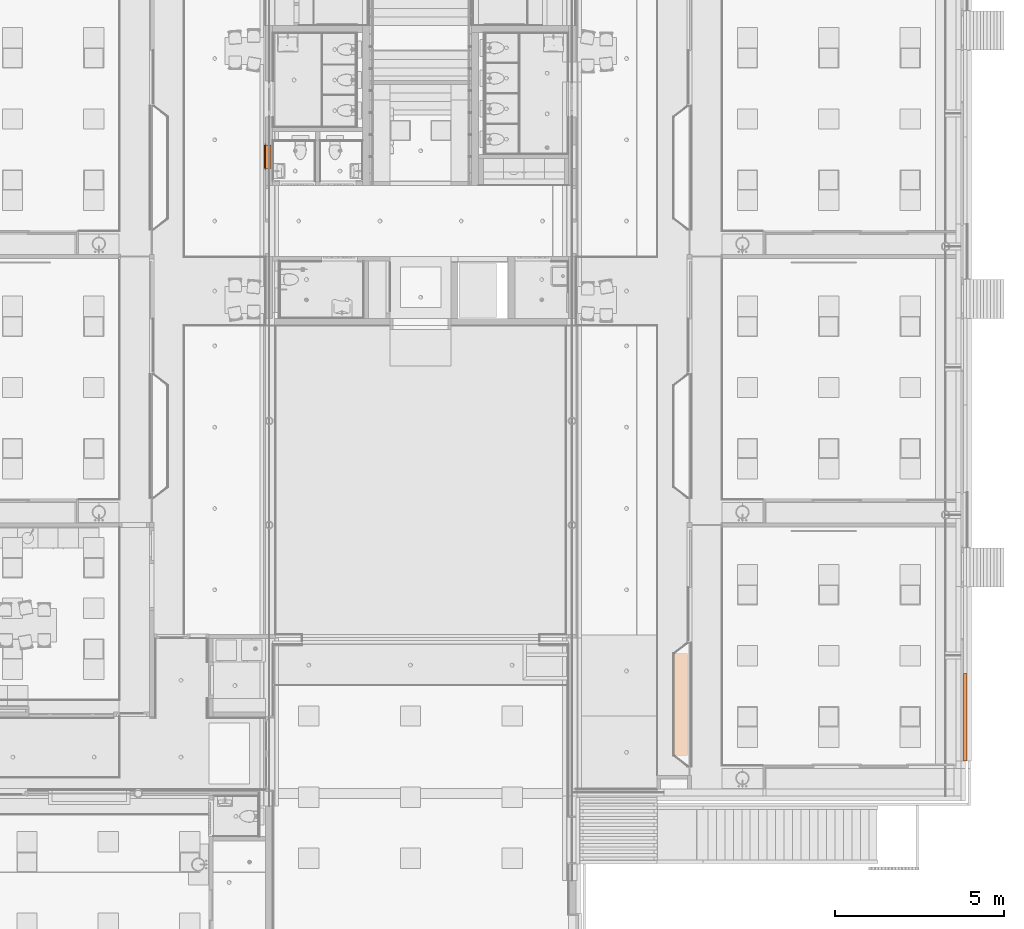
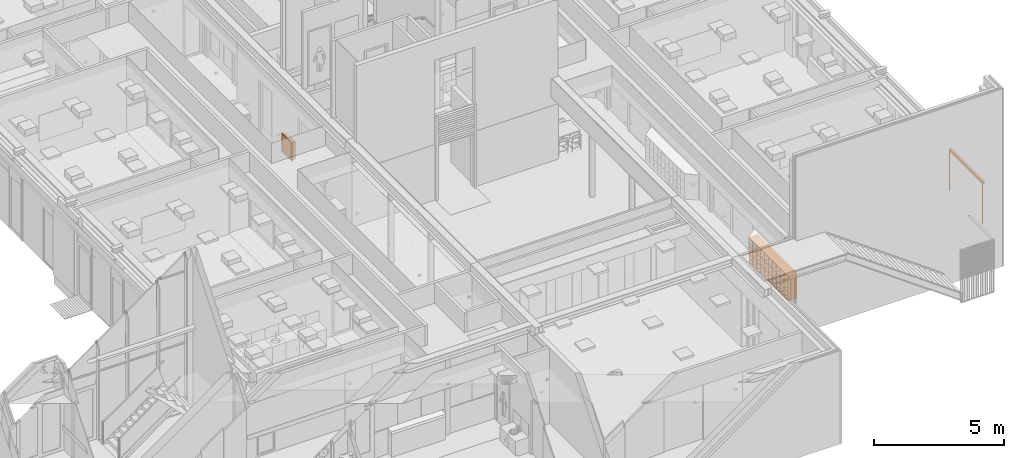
# One storey, part 332 of 347: 3 proxies.
"""IFC2X3 building model written with IfcOpenShell, lengths in millimetres."""

import ifcopenshell
import ifcopenshell.guid

model = None  # the IFC model being written
_history = None  # IfcOwnerHistory: only IFC2X3 demands one
_inside = {}  # id of a spatial element -> (the spatial element, [elements in it])
_under = {}  # id of a project, library or spatial element -> (it, [spatial elements below it])
_declared = {}  # id of a project -> (the project, [libraries it declares])
_typed = {}  # id of a type object -> (the type object, [elements of that type])
_made_of = {}  # id of a material, layer set ... -> (it, [elements and type objects made of it])


def new_model(schema):
    """Start an empty IFC model of exactly this schema.

    Asked for "IFC4X3", IfcOpenShell would pick the latest addendum, in which some entities
    have other attributes; the version numbers below select the first issue.
    IFC2X3 requires an IfcOwnerHistory on every rooted entity: one is made here for all.
    """
    global model, _history
    if schema == "IFC4X3":
        model = ifcopenshell.file(schema_version=(4, 3, 0, 0))
    else:
        model = ifcopenshell.file(schema=schema)
    _inside.clear()
    _under.clear()
    _declared.clear()
    _typed.clear()
    _made_of.clear()
    _history = None
    if model.schema == "IFC2X3":
        org = make("IfcOrganization", Name="unknown")
        user = make(
            "IfcPersonAndOrganization",
            ThePerson=make("IfcPerson", FamilyName="unknown"),
            TheOrganization=org,
        )
        app = make(
            "IfcApplication",
            ApplicationDeveloper=org,
            Version="unknown",
            ApplicationFullName="unknown",
            ApplicationIdentifier="unknown",
        )
        _history = make(
            "IfcOwnerHistory",
            OwningUser=user,
            OwningApplication=app,
            ChangeAction="ADDED",
            CreationDate=0,
        )
    return model


def make(cls, **values):
    """One entity of the class cls with the attributes given. An attribute that is None is left unset."""
    return model.create_entity(
        cls, **{name: value for name, value in values.items() if value is not None}
    )


def entity(cls, *values):
    """Any entity or typed value of the class cls, its attributes in the order of the schema. None: left unset."""
    e = model.create_entity(cls)
    for i, value in enumerate(values):
        if value is not None:
            e[i] = value
    return e


def rooted(cls, **values):
    """An entity with a GlobalId (a new one), such as an element, a storey or a relation."""
    return make(cls, GlobalId=ifcopenshell.guid.new(), OwnerHistory=_history, **values)


def si_unit(unit_type, name, prefix=None):
    """IfcSIUnit, for example si_unit("LENGTHUNIT", "METRE", prefix="MILLI")."""
    return make("IfcSIUnit", UnitType=unit_type, Prefix=prefix, Name=name)


def converted_unit(unit_type, name, factor, base, dimensions=None, offset=None):
    """IfcConversionBasedUnit, such as the inch: factor (a typed value) times the base unit."""
    return make(
        "IfcConversionBasedUnit"
        if offset is None
        else "IfcConversionBasedUnitWithOffset",
        ConversionOffset=offset,
        Dimensions=None
        if dimensions is None
        else entity("IfcDimensionalExponents", *dimensions),
        UnitType=unit_type,
        Name=name,
        ConversionFactor=make(
            "IfcMeasureWithUnit", ValueComponent=factor, UnitComponent=base
        ),
    )


def derived_unit(unit_type, elements):
    """IfcDerivedUnit: a product of units, each with its exponent."""
    return make(
        "IfcDerivedUnit",
        Elements=[
            make("IfcDerivedUnitElement", Unit=unit, Exponent=power)
            for unit, power in elements
        ],
        UnitType=unit_type,
    )


def money_unit(currency):
    """IfcMonetaryUnit."""
    return make("IfcMonetaryUnit", Currency=currency)


def assignment(units):
    """IfcUnitAssignment: the units of a project."""
    return None if units is None else make("IfcUnitAssignment", Units=units)


def point(xyz):
    """IfcCartesianPoint."""
    return None if xyz is None else make("IfcCartesianPoint", Coordinates=xyz)


def direction(xyz):
    """IfcDirection."""
    return None if xyz is None else make("IfcDirection", DirectionRatios=xyz)


def frame(location, z_axis=None, x_axis=None):
    """IfcAxis2Placement3D, a coordinate frame: its origin and axes. An axis left out is left unset."""
    return make(
        "IfcAxis2Placement3D",
        Location=point(location),
        Axis=direction(z_axis),
        RefDirection=direction(x_axis),
    )


def origin_with_axes():
    """The frame at (0, 0, 0) with the z axis (0, 0, 1) and the x axis (1, 0, 0) written out."""
    return frame((0.0, 0.0, 0.0), z_axis=(0.0, 0.0, 1.0), x_axis=(1.0, 0.0, 0.0))


def place(relative_to, where):
    """IfcLocalPlacement: puts the frame where relative to a parent placement (None: the world)."""
    return make(
        "IfcLocalPlacement", PlacementRelTo=relative_to, RelativePlacement=where
    )


def context(
    kind, dimensions, precision=None, world=None, true_north=None, identifier=None
):
    """IfcGeometricRepresentationContext, for example the 3D "Model" context."""
    return make(
        "IfcGeometricRepresentationContext",
        ContextIdentifier=identifier,
        ContextType=kind,
        CoordinateSpaceDimension=dimensions,
        Precision=precision,
        WorldCoordinateSystem=world,
        TrueNorth=true_north,
    )


def subcontext(parent, identifier, kind, view, scale=None):
    """IfcGeometricRepresentationSubContext, for example "Body" below "Model"."""
    return make(
        "IfcGeometricRepresentationSubContext",
        ContextIdentifier=identifier,
        ContextType=kind,
        ParentContext=parent,
        TargetScale=scale,
        TargetView=view,
    )


def project(units=None, contexts=None):
    """IfcProject with its units and contexts."""
    return rooted(
        "IfcProject",
        Name="project",
        RepresentationContexts=contexts,
        UnitsInContext=assignment(units),
    )


def spatial(cls, under=None, at=None, **own):
    """A site, building, storey or space (cls), placed at a placement, below another one or the project."""
    s = rooted(cls, ObjectPlacement=at, **own)
    if under is not None:
        _under.setdefault(under.id(), (under, []))[1].append(s)
    return s


def faces_of(points, faces, orient=None, outer=None):
    """IfcFace entities. A face is a list of loops; a loop is a list of indices into points, from 0.

    orient and outer hold one flag for each loop. By default every Orientation is true, the
    first loop of a face is its IfcFaceOuterBound and the others are IfcFaceBound.
    """
    made = []
    for i, loops in enumerate(faces):
        bounds = []
        for j, loop in enumerate(loops):
            is_outer = j == 0 if outer is None else outer[i][j]
            bounds.append(
                make(
                    "IfcFaceOuterBound" if is_outer else "IfcFaceBound",
                    Bound=make("IfcPolyLoop", Polygon=[points[k] for k in loop]),
                    Orientation=True if orient is None else orient[i][j],
                )
            )
        made.append(make("IfcFace", Bounds=bounds))
    return made


def open_shell(faces, orient=None, outer=None):
    """The faces of one IfcOpenShell. surface_model builds it on its shared points."""
    return ("IfcOpenShell", faces, orient, outer)


def faceted_brep(points, faces, orient=None, outer=None, voids=None):
    """IfcFacetedBrep: a solid bounded by flat faces; with voids (closed shells), ...WithVoids."""
    shared = [point(p) for p in points]
    hull = make("IfcClosedShell", CfsFaces=faces_of(shared, faces, orient, outer))
    if voids is None:
        return make("IfcFacetedBrep", Outer=hull)
    return make(
        "IfcFacetedBrepWithVoids",
        Outer=hull,
        Voids=[
            make(cls, CfsFaces=faces_of(shared, fs, o, b)) for cls, fs, o, b in voids
        ],
    )


def surface_model(cls, points, shells):
    """IfcFaceBasedSurfaceModel or IfcShellBasedSurfaceModel (cls): surfaces that need not close."""
    shared = [point(p) for p in points]
    made = [make(c, CfsFaces=faces_of(shared, fs, o, b)) for c, fs, o, b in shells]
    if cls == "IfcFaceBasedSurfaceModel":
        return make(cls, FbsmFaces=made)
    return make(cls, SbsmBoundary=made)


def shape(context_of_items, identifier, shape_type, items):
    """IfcShapeRepresentation: the items that make up one representation, for example the "Body"."""
    return make(
        "IfcShapeRepresentation",
        ContextOfItems=context_of_items,
        RepresentationIdentifier=identifier,
        RepresentationType=shape_type,
        Items=items,
    )


def source(mapping_origin, context_of_items, identifier, shape_type, items):
    """IfcRepresentationMap: a shape defined once, which mapped items show again and again."""
    return make(
        "IfcRepresentationMap",
        MappingOrigin=mapping_origin,
        MappedRepresentation=shape(context_of_items, identifier, shape_type, items),
    )


def transform(
    local_origin,
    x_axis=None,
    y_axis=None,
    z_axis=None,
    scale=None,
    scale2=None,
    scale3=None,
    uniform=True,
):
    """IfcCartesianTransformationOperator3D, or its non-uniform kind. x_axis, y_axis, z_axis: its Axis1, 2, 3."""
    if uniform:
        return make(
            "IfcCartesianTransformationOperator3D",
            Axis1=direction(x_axis),
            Axis2=direction(y_axis),
            LocalOrigin=point(local_origin),
            Scale=scale,
            Axis3=direction(z_axis),
        )
    return make(
        "IfcCartesianTransformationOperator3DnonUniform",
        Axis1=direction(x_axis),
        Axis2=direction(y_axis),
        LocalOrigin=point(local_origin),
        Scale=scale,
        Axis3=direction(z_axis),
        Scale2=scale2,
        Scale3=scale3,
    )


def mapped(mapping_source, mapping_target):
    """IfcMappedItem: shows the shape of a source again, moved by a transform."""
    return make(
        "IfcMappedItem", MappingSource=mapping_source, MappingTarget=mapping_target
    )


def made_of(thing, what):
    """Note that an element or type object is made of a material, layer set ...; save() writes the relation."""
    if what is not None:
        _made_of.setdefault(what.id(), (what, []))[1].append(thing)
    return thing


def type_object(cls, material=None, **own):
    """A type object (cls), such as IfcWallType, which elements share."""
    return made_of(rooted(cls, **own), material)


def type_shapes(of_type, sources):
    """Give a type object the sources (RepresentationMaps) that its elements show as mapped items."""
    of_type.RepresentationMaps = sources


def element(
    cls,
    number,
    at=None,
    inside=None,
    cuts=None,
    type_object=None,
    material=None,
    context=None,
    identifier="Body",
    shape_type=None,
    held_by="IfcProductDefinitionShape",
    body=None,
    shapes=None,
    **own,
):
    """One element of the class cls, such as IfcWall. Its Tag is "e" and its number.

    at: its placement. inside: the storey or other place that contains it. cuts: it is an
    opening in that element (IfcRelVoidsElement). A single representation is given by context,
    identifier, shape_type and body (its items); several are given by shapes. held_by: the class
    of the entity that holds the representations. save() writes the other relations.
    """
    e = rooted(cls, Tag="e%d" % number, ObjectPlacement=at, **own)
    if body is not None:
        shapes = [shape(context, identifier, shape_type, body)]
    if shapes is not None:
        e.Representation = make(held_by, Representations=shapes)
    if inside is not None:
        _inside.setdefault(inside.id(), (inside, []))[1].append(e)
    if cuts is not None:
        rooted(
            "IfcRelVoidsElement", RelatingBuildingElement=cuts, RelatedOpeningElement=e
        )
    if type_object is not None:
        _typed.setdefault(type_object.id(), (type_object, []))[1].append(e)
    return made_of(e, material)


def aggregate(whole, parts):
    """IfcRelAggregates: a whole, such as a stair, and the parts it consists of."""
    return rooted("IfcRelAggregates", RelatingObject=whole, RelatedObjects=parts)


def save(model, path):
    """Write the relations noted so far, then the file.

    IfcRelAggregates (storeys below a building ...), IfcRelContainedInSpatialStructure (elements
    in a storey), IfcRelDefinesByType, IfcRelAssociatesMaterial and IfcRelDeclares: one each for
    every whole, place, type object, material and project.
    """
    for whole, parts in _under.values():
        aggregate(whole, parts)
    for where, things in _inside.values():
        rooted(
            "IfcRelContainedInSpatialStructure",
            RelatedElements=things,
            RelatingStructure=where,
        )
    for kind, things in _typed.values():
        rooted("IfcRelDefinesByType", RelatedObjects=things, RelatingType=kind)
    for what, things in _made_of.values():
        rooted("IfcRelAssociatesMaterial", RelatedObjects=things, RelatingMaterial=what)
    for by, libraries in _declared.values():
        rooted("IfcRelDeclares", RelatingContext=by, RelatedDefinitions=libraries)
    model.write(path)


model = new_model("IFC2X3")

# Units and contexts
model_context = context("Model", 3, precision=0.01, world=origin_with_axes(), true_north=direction((0.0, 1.0)))
plan_context = context("Plan", 3, precision=0.01, world=origin_with_axes(), true_north=direction((0.0, 1.0)))
body_context = subcontext(model_context, "Body", "Model", "MODEL_VIEW")
ifc_project = project(units=[si_unit("LENGTHUNIT", "METRE", prefix="MILLI"), si_unit("AREAUNIT", "SQUARE_METRE"), si_unit("VOLUMEUNIT", "CUBIC_METRE"), converted_unit("PLANEANGLEUNIT", "DEGREE", entity("IfcPlaneAngleMeasure", 0.0174532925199), si_unit("PLANEANGLEUNIT", "RADIAN"), dimensions=[0, 0, 0, 0, 0, 0, 0]), money_unit("EUR"), converted_unit("TIMEUNIT", "Year", entity("IfcTimeMeasure", 31556926.0), si_unit("TIMEUNIT", "SECOND"), dimensions=[0, 0, 1, 0, 0, 0, 0]), si_unit("MASSUNIT", "GRAM", prefix="KILO"), si_unit("THERMODYNAMICTEMPERATUREUNIT", "DEGREE_CELSIUS"), si_unit("LUMINOUSINTENSITYUNIT", "LUMEN"), si_unit("ENERGYUNIT", "JOULE", prefix="MEGA"), derived_unit("THERMALCONDUCTANCEUNIT", [(si_unit("POWERUNIT", "WATT"), 1), (si_unit("LENGTHUNIT", "METRE"), -1), (si_unit("THERMODYNAMICTEMPERATUREUNIT", "KELVIN"), -1)]), derived_unit("SPECIFICHEATCAPACITYUNIT", [(si_unit("ENERGYUNIT", "JOULE"), 1), (si_unit("MASSUNIT", "GRAM", prefix="KILO"), -1), (si_unit("THERMODYNAMICTEMPERATUREUNIT", "KELVIN"), -1)]), derived_unit("MASSDENSITYUNIT", [(si_unit("MASSUNIT", "GRAM", prefix="KILO"), 1), (si_unit("VOLUMEUNIT", "CUBIC_METRE"), -1)])], contexts=[model_context, plan_context])

# Site, building, storey
site_placement = place(None, origin_with_axes())
site = spatial("IfcSite", under=ifc_project, at=site_placement, Name="Site", CompositionType="ELEMENT")
building_placement = place(site_placement, origin_with_axes())
building = spatial("IfcBuilding", under=site, at=building_placement, Name="Naam gebouw", CompositionType="ELEMENT")
storey_placement = place(building_placement, origin_with_axes())
storey = spatial("IfcBuildingStorey", under=building, at=storey_placement, Name="begane grond", CompositionType="ELEMENT", Elevation=0.0)

# Proxies
building_element_proxy_type_1 = type_object("IfcBuildingElementProxyType", Name="Brandslang haspelkast 25", PredefinedType="NOTDEFINED")
shared_shape_1 = source(origin_with_axes(), body_context, "Body", "Brep", [
    faceted_brep([(0.0, 40.0, 0.0), (0.0, 20.0, 0.0), (-780.0, 20.0, 0.0), (-780.0, 40.0, 0.0), (0.0, 40.0, 900.0), (0.0, 20.0, 900.0), (-780.0, 20.0, 900.0), (-60.0, 20.0, 60.0), (-720.0, 20.0, 60.0), (-720.0, 20.0, 840.0), (-60.0, 20.0, 840.0), (-780.0, 40.0, 900.0), (-60.0, 40.0, 60.0), (-60.0, 40.0, 840.0), (-720.0, 40.0, 840.0), (-720.0, 40.0, 60.0)], [[[0, 1, 2, 3]], [[4, 5, 1, 0]], [[1, 5, 6, 2], [7, 8, 9, 10]], [[3, 2, 6, 11]], [[0, 3, 11, 4], [12, 13, 14, 15]], [[11, 6, 5, 4]], [[15, 8, 7, 12]], [[14, 9, 8, 15]], [[13, 10, 9, 14]], [[12, 7, 10, 13]]]),
    faceted_brep([(-40.0, 20.0, 40.0), (-40.0, 0.0, 40.0), (-740.0, 0.0, 40.0), (-740.0, 20.0, 40.0), (-40.0, 20.0, 860.0), (-40.0, 0.0, 860.0), (-740.0, 0.0, 860.0), (-80.0, 0.0, 80.0), (-700.0, 0.0, 80.0), (-700.0, 0.0, 820.0), (-80.0, 0.0, 820.0), (-740.0, 20.0, 860.0), (-80.0, 20.0, 80.0), (-80.0, 20.0, 820.0), (-700.0, 20.0, 820.0), (-700.0, 20.0, 80.0)], [[[0, 1, 2, 3]], [[4, 5, 1, 0]], [[1, 5, 6, 2], [7, 8, 9, 10]], [[3, 2, 6, 11]], [[0, 3, 11, 4], [12, 13, 14, 15]], [[11, 6, 5, 4]], [[15, 8, 7, 12]], [[14, 9, 8, 15]], [[13, 10, 9, 14]], [[12, 7, 10, 13]]]),
    faceted_brep([(-40.0, 180.0, 40.0), (-40.0, 40.0, 40.0), (-740.0, 40.0, 40.0), (-740.0, 180.0, 40.0), (-40.0, 180.0, 860.0), (-40.0, 40.0, 860.0), (-740.0, 40.0, 860.0), (-60.0, 40.0, 60.0), (-720.0, 40.0, 60.0), (-720.0, 40.0, 840.0), (-60.0, 40.0, 840.0), (-740.0, 180.0, 860.0), (-60.0, 180.0, 60.0), (-60.0, 180.0, 840.0), (-720.0, 180.0, 840.0), (-720.0, 180.0, 60.0)], [[[0, 1, 2, 3]], [[4, 5, 1, 0]], [[1, 5, 6, 2], [7, 8, 9, 10]], [[3, 2, 6, 11]], [[0, 3, 11, 4], [12, 13, 14, 15]], [[11, 6, 5, 4]], [[15, 8, 7, 12]], [[14, 9, 8, 15]], [[13, 10, 9, 14]], [[12, 7, 10, 13]]]),
    faceted_brep([(-40.0, 200.0, 40.0), (-40.0, 180.0, 40.0), (-740.0, 180.0, 40.0), (-740.0, 200.0, 40.0), (-40.0, 200.0, 860.0), (-40.0, 180.0, 860.0), (-740.0, 180.0, 860.0), (-740.0, 200.0, 860.0)], [[[0, 1, 2, 3]], [[4, 5, 1, 0]], [[1, 5, 6, 2]], [[3, 2, 6, 7]], [[0, 3, 7, 4]], [[7, 6, 5, 4]]]),
    faceted_brep([(-80.0, 15.0, 80.0), (-80.0, 5.0, 80.0), (-700.0, 5.0, 80.0), (-700.0, 15.0, 80.0), (-80.0, 15.0, 820.0), (-80.0, 5.0, 820.0), (-700.0, 5.0, 820.0), (-700.0, 15.0, 820.0)], [[[0, 1, 2, 3]], [[4, 5, 1, 0]], [[1, 5, 6, 2]], [[3, 2, 6, 7]], [[0, 3, 7, 4]], [[7, 6, 5, 4]]]),
    faceted_brep([(-729.659258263, 0.0, 447.411809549), (-730.0, 0.0, 450.0), (-729.659258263, 0.0, 452.588190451), (-728.660254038, 0.0, 455.0), (-727.071067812, 0.0, 457.071067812), (-725.0, 0.0, 458.660254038), (-722.588190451, 0.0, 459.659258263), (-720.0, 0.0, 460.0), (-717.411809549, 0.0, 459.659258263), (-715.0, 0.0, 458.660254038), (-712.928932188, 0.0, 457.071067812), (-711.339745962, 0.0, 455.0), (-710.340741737, 0.0, 452.588190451), (-710.0, 0.0, 450.0), (-710.340741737, 0.0, 447.411809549), (-711.339745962, 0.0, 445.0), (-712.928932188, 0.0, 442.928932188), (-715.0, 0.0, 441.339745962), (-717.411809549, 0.0, 440.340741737), (-720.0, 0.0, 440.0), (-722.588190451, 0.0, 440.340741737), (-725.0, 0.0, 441.339745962), (-727.071067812, 0.0, 442.928932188), (-728.660254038, 0.0, 445.0), (-729.659258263, -2.0, 447.411809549), (-730.0, -2.0, 450.0), (-729.659258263, -2.0, 452.588190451), (-728.660254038, -2.0, 455.0), (-727.071067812, -2.0, 457.071067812), (-725.0, -2.0, 458.660254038), (-722.588190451, -2.0, 459.659258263), (-720.0, -2.0, 460.0), (-717.411809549, -2.0, 459.659258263), (-715.0, -2.0, 458.660254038), (-712.928932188, -2.0, 457.071067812), (-711.339745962, -2.0, 455.0), (-710.340741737, -2.0, 452.588190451), (-710.0, -2.0, 450.0), (-710.340741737, -2.0, 447.411809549), (-711.339745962, -2.0, 445.0), (-712.928932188, -2.0, 442.928932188), (-715.0, -2.0, 441.339745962), (-717.411809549, -2.0, 440.340741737), (-720.0, -2.0, 440.0), (-722.588190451, -2.0, 440.340741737), (-725.0, -2.0, 441.339745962), (-727.071067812, -2.0, 442.928932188), (-728.660254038, -2.0, 445.0)], [[[0, 1, 2, 3, 4, 5, 6, 7, 8, 9, 10, 11, 12, 13, 14, 15, 16, 17, 18, 19, 20, 21, 22, 23]], [[0, 24, 25, 1]], [[1, 25, 26, 2]], [[2, 26, 27, 3]], [[3, 27, 28, 4]], [[4, 28, 29, 5]], [[5, 29, 30, 6]], [[6, 30, 31, 7]], [[7, 31, 32, 8]], [[8, 32, 33, 9]], [[9, 33, 34, 10]], [[10, 34, 35, 11]], [[11, 35, 36, 12]], [[12, 36, 37, 13]], [[13, 37, 38, 14]], [[14, 38, 39, 15]], [[15, 39, 40, 16]], [[16, 40, 41, 17]], [[17, 41, 42, 18]], [[18, 42, 43, 19]], [[19, 43, 44, 20]], [[20, 44, 45, 21]], [[21, 45, 46, 22]], [[22, 46, 47, 23]], [[23, 47, 24, 0]], [[24, 47, 46, 45, 44, 43, 42, 41, 40, 39, 38, 37, 36, 35, 34, 33, 32, 31, 30, 29, 28, 27, 26, 25]]]),
    faceted_brep([(-39.8977774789, 16.2235428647, 80.0), (-40.0, 17.0, 80.0), (-39.8977774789, 17.7764571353, 80.0), (-39.5980762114, 18.5, 80.0), (-39.1213203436, 19.1213203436, 80.0), (-38.5, 19.5980762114, 80.0), (-37.7764571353, 19.8977774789, 80.0), (-37.0, 20.0, 80.0), (-36.2235428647, 19.8977774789, 80.0), (-35.5, 19.5980762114, 80.0), (-34.8786796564, 19.1213203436, 80.0), (-34.4019237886, 18.5, 80.0), (-34.1022225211, 17.7764571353, 80.0), (-34.0, 17.0, 80.0), (-34.1022225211, 16.2235428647, 80.0), (-34.4019237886, 15.5, 80.0), (-34.8786796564, 14.8786796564, 80.0), (-35.5, 14.4019237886, 80.0), (-36.2235428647, 14.1022225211, 80.0), (-37.0, 14.0, 80.0), (-37.7764571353, 14.1022225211, 80.0), (-38.5, 14.4019237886, 80.0), (-39.1213203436, 14.8786796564, 80.0), (-39.5980762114, 15.5, 80.0), (-39.8977774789, 16.2235428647, 120.0), (-40.0, 17.0, 120.0), (-39.8977774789, 17.7764571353, 120.0), (-39.5980762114, 18.5, 120.0), (-39.1213203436, 19.1213203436, 120.0), (-38.5, 19.5980762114, 120.0), (-37.7764571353, 19.8977774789, 120.0), (-37.0, 20.0, 120.0), (-36.2235428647, 19.8977774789, 120.0), (-35.5, 19.5980762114, 120.0), (-34.8786796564, 19.1213203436, 120.0), (-34.4019237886, 18.5, 120.0), (-34.1022225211, 17.7764571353, 120.0), (-34.0, 17.0, 120.0), (-34.1022225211, 16.2235428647, 120.0), (-34.4019237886, 15.5, 120.0), (-34.8786796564, 14.8786796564, 120.0), (-35.5, 14.4019237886, 120.0), (-36.2235428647, 14.1022225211, 120.0), (-37.0, 14.0, 120.0), (-37.7764571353, 14.1022225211, 120.0), (-38.5, 14.4019237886, 120.0), (-39.1213203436, 14.8786796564, 120.0), (-39.5980762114, 15.5, 120.0)], [[[0, 1, 2, 3, 4, 5, 6, 7, 8, 9, 10, 11, 12, 13, 14, 15, 16, 17, 18, 19, 20, 21, 22, 23]], [[0, 24, 25, 1]], [[1, 25, 26, 2]], [[2, 26, 27, 3]], [[3, 27, 28, 4]], [[4, 28, 29, 5]], [[5, 29, 30, 6]], [[6, 30, 31, 7]], [[7, 31, 32, 8]], [[8, 32, 33, 9]], [[9, 33, 34, 10]], [[10, 34, 35, 11]], [[11, 35, 36, 12]], [[12, 36, 37, 13]], [[13, 37, 38, 14]], [[14, 38, 39, 15]], [[15, 39, 40, 16]], [[16, 40, 41, 17]], [[17, 41, 42, 18]], [[18, 42, 43, 19]], [[19, 43, 44, 20]], [[20, 44, 45, 21]], [[21, 45, 46, 22]], [[22, 46, 47, 23]], [[23, 47, 24, 0]], [[24, 47, 46, 45, 44, 43, 42, 41, 40, 39, 38, 37, 36, 35, 34, 33, 32, 31, 30, 29, 28, 27, 26, 25]]]),
    faceted_brep([(-39.8977774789, 16.2235428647, 780.0), (-40.0, 17.0, 780.0), (-39.8977774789, 17.7764571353, 780.0), (-39.5980762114, 18.5, 780.0), (-39.1213203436, 19.1213203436, 780.0), (-38.5, 19.5980762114, 780.0), (-37.7764571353, 19.8977774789, 780.0), (-37.0, 20.0, 780.0), (-36.2235428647, 19.8977774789, 780.0), (-35.5, 19.5980762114, 780.0), (-34.8786796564, 19.1213203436, 780.0), (-34.4019237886, 18.5, 780.0), (-34.1022225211, 17.7764571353, 780.0), (-34.0, 17.0, 780.0), (-34.1022225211, 16.2235428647, 780.0), (-34.4019237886, 15.5, 780.0), (-34.8786796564, 14.8786796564, 780.0), (-35.5, 14.4019237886, 780.0), (-36.2235428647, 14.1022225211, 780.0), (-37.0, 14.0, 780.0), (-37.7764571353, 14.1022225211, 780.0), (-38.5, 14.4019237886, 780.0), (-39.1213203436, 14.8786796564, 780.0), (-39.5980762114, 15.5, 780.0), (-39.8977774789, 16.2235428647, 820.0), (-40.0, 17.0, 820.0), (-39.8977774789, 17.7764571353, 820.0), (-39.5980762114, 18.5, 820.0), (-39.1213203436, 19.1213203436, 820.0), (-38.5, 19.5980762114, 820.0), (-37.7764571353, 19.8977774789, 820.0), (-37.0, 20.0, 820.0), (-36.2235428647, 19.8977774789, 820.0), (-35.5, 19.5980762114, 820.0), (-34.8786796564, 19.1213203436, 820.0), (-34.4019237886, 18.5, 820.0), (-34.1022225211, 17.7764571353, 820.0), (-34.0, 17.0, 820.0), (-34.1022225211, 16.2235428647, 820.0), (-34.4019237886, 15.5, 820.0), (-34.8786796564, 14.8786796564, 820.0), (-35.5, 14.4019237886, 820.0), (-36.2235428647, 14.1022225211, 820.0), (-37.0, 14.0, 820.0), (-37.7764571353, 14.1022225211, 820.0), (-38.5, 14.4019237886, 820.0), (-39.1213203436, 14.8786796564, 820.0), (-39.5980762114, 15.5, 820.0)], [[[0, 1, 2, 3, 4, 5, 6, 7, 8, 9, 10, 11, 12, 13, 14, 15, 16, 17, 18, 19, 20, 21, 22, 23]], [[0, 24, 25, 1]], [[1, 25, 26, 2]], [[2, 26, 27, 3]], [[3, 27, 28, 4]], [[4, 28, 29, 5]], [[5, 29, 30, 6]], [[6, 30, 31, 7]], [[7, 31, 32, 8]], [[8, 32, 33, 9]], [[9, 33, 34, 10]], [[10, 34, 35, 11]], [[11, 35, 36, 12]], [[12, 36, 37, 13]], [[13, 37, 38, 14]], [[14, 38, 39, 15]], [[15, 39, 40, 16]], [[16, 40, 41, 17]], [[17, 41, 42, 18]], [[18, 42, 43, 19]], [[19, 43, 44, 20]], [[20, 44, 45, 21]], [[21, 45, 46, 22]], [[22, 46, 47, 23]], [[23, 47, 24, 0]], [[24, 47, 46, 45, 44, 43, 42, 41, 40, 39, 38, 37, 36, 35, 34, 33, 32, 31, 30, 29, 28, 27, 26, 25]]]),
])
type_shapes(building_element_proxy_type_1, [shared_shape_1])
proxy_1_placement = place(storey_placement, frame((35454.9999477, 30534.9998623, 300.0), z_axis=(0.0, 0.0, 1.0), x_axis=(0.0, -1.0, 0.0)))
element("IfcBuildingElementProxy", 1, at=proxy_1_placement, inside=storey, type_object=building_element_proxy_type_1, Name="65_Object-x", context=body_context, shape_type="MappedRepresentation", body=[
    mapped(shared_shape_1, transform((0.0, 0.0, 0.0))),
])
building_element_proxy_type_2 = type_object("IfcBuildingElementProxyType", Name="Screen 25 KM", PredefinedType="NOTDEFINED")
shared_shape_2 = source(origin_with_axes(), body_context, "Body", "SurfaceModel", [
    faceted_brep([(0.0, 0.0, 0.0), (0.0, 0.0, 1885.0), (0.0, -28.0, 1885.0), (0.0, -28.0, 0.0), (-38.0, 0.0, 0.0), (-38.0, 0.0, 1885.0), (-38.0, -4.0, 1885.0), (-35.0, -4.0, 1885.0), (-35.0, -3.0, 1885.0), (-3.0, -3.0, 1885.0), (-3.0, -25.0, 1885.0), (-35.0, -25.0, 1885.0), (-35.0, -24.0, 1885.0), (-38.0, -24.0, 1885.0), (-38.0, -28.0, 1885.0), (-38.0, -28.0, 0.0), (-38.0, -24.0, 0.0), (-35.0, -24.0, 0.0), (-35.0, -25.0, 0.0), (-3.0, -25.0, 0.0), (-3.0, -3.0, 0.0), (-35.0, -3.0, 0.0), (-35.0, -4.0, 0.0), (-38.0, -4.0, 0.0)], [[[0, 1, 2, 3]], [[4, 5, 1, 0]], [[1, 5, 6, 7, 8, 9, 10, 11, 12, 13, 14, 2]], [[3, 2, 14, 15]], [[0, 3, 15, 16, 17, 18, 19, 20, 21, 22, 23, 4]], [[23, 6, 5, 4]], [[22, 7, 6, 23]], [[21, 8, 7, 22]], [[20, 9, 8, 21]], [[19, 10, 9, 20]], [[18, 11, 10, 19]], [[17, 12, 11, 18]], [[16, 13, 12, 17]], [[15, 14, 13, 16]]]),
    faceted_brep([(-2575.0, 0.0, 0.0), (-2575.0, -28.0, 0.0), (-2575.0, -28.0, 1885.0), (-2575.0, 0.0, 1885.0), (-2537.0, 0.0, 0.0), (-2537.0, -4.0, 0.0), (-2540.0, -4.0, 0.0), (-2540.0, -3.0, 0.0), (-2572.0, -3.0, 0.0), (-2572.0, -25.0, 0.0), (-2540.0, -25.0, 0.0), (-2540.0, -24.0, 0.0), (-2537.0, -24.0, 0.0), (-2537.0, -28.0, 0.0), (-2537.0, -28.0, 1885.0), (-2537.0, -24.0, 1885.0), (-2540.0, -24.0, 1885.0), (-2540.0, -25.0, 1885.0), (-2572.0, -25.0, 1885.0), (-2572.0, -3.0, 1885.0), (-2540.0, -3.0, 1885.0), (-2540.0, -4.0, 1885.0), (-2537.0, -4.0, 1885.0), (-2537.0, 0.0, 1885.0)], [[[0, 1, 2, 3]], [[0, 4, 5, 6, 7, 8, 9, 10, 11, 12, 13, 1]], [[1, 13, 14, 2]], [[3, 2, 14, 15, 16, 17, 18, 19, 20, 21, 22, 23]], [[4, 0, 3, 23]], [[5, 4, 23, 22]], [[6, 5, 22, 21]], [[7, 6, 21, 20]], [[8, 7, 20, 19]], [[9, 8, 19, 18]], [[10, 9, 18, 17]], [[11, 10, 17, 16]], [[12, 11, 16, 15]], [[13, 12, 15, 14]]]),
    surface_model("IfcShellBasedSurfaceModel", [(0.0, 0.0, 1980.0), (0.0, -95.0, 1980.0), (0.0, -95.0, 1885.0), (0.0, 0.0, 1885.0)], [open_shell([[[0, 1, 2, 3]]])]),
    surface_model("IfcShellBasedSurfaceModel", [(-0.01, 0.0, 1980.0), (-2574.99, 0.0, 1980.0), (-2574.99, -95.0, 1980.0), (-0.00999999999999, -95.0, 1980.0), (-0.01, 0.0, 1888.0), (-2574.99, 0.0, 1888.0), (-2574.99, -6.0, 1888.0), (-2574.99, -6.0, 1891.0), (-2574.99, -3.0, 1891.0), (-2574.99, -3.0, 1977.0), (-2574.99, -92.0, 1977.0), (-2574.99, -92.0, 1888.0), (-2574.99, -28.0, 1888.0), (-2574.99, -28.0, 1882.0), (-2574.99, -31.0, 1882.0), (-2574.99, -31.0, 1885.0), (-2574.99, -95.0, 1885.0), (-0.01, -95.0, 1885.0), (-0.01, -31.0, 1885.0), (-0.01, -31.0, 1882.0), (-0.01, -28.0, 1882.0), (-0.01, -28.0, 1888.0), (-0.01, -92.0, 1888.0), (-0.00999999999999, -92.0, 1977.0), (-0.01, -3.0, 1977.0), (-0.01, -3.0, 1891.0), (-0.01, -6.0, 1891.0), (-0.01, -6.0, 1888.0)], [open_shell([[[0, 1, 2, 3]], [[4, 5, 1, 0]], [[1, 5, 6, 7, 8, 9, 10, 11, 12, 13, 14, 15, 16, 2]], [[3, 2, 16, 17]], [[0, 3, 17, 18, 19, 20, 21, 22, 23, 24, 25, 26, 27, 4]], [[19, 14, 13, 20]], [[18, 15, 14, 19]], [[17, 16, 15, 18]]])]),
    surface_model("IfcShellBasedSurfaceModel", [(-2574.99, 0.0, 1980.0), (-2574.99, -95.0, 1980.0), (-2574.99, -95.0, 1885.0), (-2574.99, 0.0, 1885.0)], [open_shell([[[0, 1, 2, 3]]])]),
])
type_shapes(building_element_proxy_type_2, [shared_shape_2])
proxy_2_placement = place(storey_placement, frame((56108.0000442, 15662.5000004, 720.0), z_axis=(0.0, 0.0, 1.0), x_axis=(0.0, 1.0, 0.0)))
element("IfcBuildingElementProxy", 2, at=proxy_2_placement, inside=storey, type_object=building_element_proxy_type_2, Name="_78 garderobe", context=body_context, shape_type="MappedRepresentation", body=[
    mapped(shared_shape_2, transform((0.0, 0.0, 0.0))),
])
building_element_proxy_type_3 = type_object("IfcBuildingElementProxyType", Name="Kast modulair 25", PredefinedType="NOTDEFINED")
shared_shape_3 = source(origin_with_axes(), body_context, "Body", "Brep", [
    faceted_brep([(0.0, 10.0, 0.0), (0.0, 10.0, 50.0), (-3018.0, 10.0, 50.0), (-3018.0, 10.0, 0.0), (0.0, 400.0, 0.0), (0.0, 400.0, 50.0), (-3018.0, 400.0, 50.0), (-3018.0, 400.0, 0.0)], [[[0, 1, 2, 3]], [[4, 5, 1, 0]], [[1, 5, 6, 2]], [[3, 2, 6, 7]], [[0, 3, 7, 4]], [[7, 6, 5, 4]]]),
    faceted_brep([(-18.0, 400.0, 68.0), (-18.0, 382.0, 68.0), (-3000.0, 382.0, 68.0), (-3000.0, 400.0, 68.0), (-18.0, 400.0, 1160.0), (-18.0, 382.0, 1160.0), (-3000.0, 382.0, 1160.0), (-3000.0, 382.0, 790.0), (-3000.0, 382.0, 420.0), (-3000.0, 400.0, 420.0), (-3000.0, 400.0, 790.0), (-3000.0, 400.0, 1160.0)], [[[0, 1, 2, 3]], [[4, 5, 1, 0]], [[1, 5, 6, 7, 8, 2]], [[3, 2, 8, 9]], [[0, 3, 9, 10, 11, 4]], [[11, 6, 5, 4]], [[10, 7, 6, 11]], [[9, 8, 7, 10]]]),
    faceted_brep([(-3018.0, 0.0, 50.0), (-3018.0, 400.0, 50.0), (0.0, 400.0, 50.0), (0.0, 0.0, 50.0), (-3018.0, 0.0, 68.0), (-3018.0, 400.0, 68.0), (0.0, 400.0, 68.0), (0.0, 0.0, 68.0)], [[[0, 1, 2, 3]], [[0, 4, 5, 1]], [[1, 5, 6, 2]], [[2, 6, 7, 3]], [[3, 7, 4, 0]], [[7, 6, 5, 4]]]),
    faceted_brep([(-18.0, 0.0, 68.0), (-18.0, 400.0, 68.0), (0.0, 400.0, 68.0), (0.0, 0.0, 68.0), (-18.0, 0.0, 420.0), (-18.0, 400.0, 420.0), (0.0, 400.0, 420.0), (0.0, 0.0, 420.0)], [[[0, 1, 2, 3]], [[0, 4, 5, 1]], [[1, 5, 6, 2]], [[2, 6, 7, 3]], [[3, 7, 4, 0]], [[7, 6, 5, 4]]]),
    faceted_brep([(-318.0, 0.0, 68.0), (-318.0, 382.0, 68.0), (-300.0, 382.0, 68.0), (-300.0, 0.0, 68.0), (-318.0, 0.0, 420.0), (-318.0, 382.0, 420.0), (-300.0, 382.0, 420.0), (-300.0, 0.0, 420.0)], [[[0, 1, 2, 3]], [[0, 4, 5, 1]], [[1, 5, 6, 2]], [[2, 6, 7, 3]], [[3, 7, 4, 0]], [[7, 6, 5, 4]]]),
    faceted_brep([(-618.0, 0.0, 68.0), (-618.0, 382.0, 68.0), (-600.0, 382.0, 68.0), (-600.0, 0.0, 68.0), (-618.0, 0.0, 420.0), (-618.0, 382.0, 420.0), (-600.0, 382.0, 420.0), (-600.0, 0.0, 420.0)], [[[0, 1, 2, 3]], [[0, 4, 5, 1]], [[1, 5, 6, 2]], [[2, 6, 7, 3]], [[3, 7, 4, 0]], [[7, 6, 5, 4]]]),
    faceted_brep([(-918.0, 0.0, 68.0), (-918.0, 382.0, 68.0), (-900.0, 382.0, 68.0), (-900.0, 0.0, 68.0), (-918.0, 0.0, 420.0), (-918.0, 382.0, 420.0), (-900.0, 382.0, 420.0), (-900.0, 0.0, 420.0)], [[[0, 1, 2, 3]], [[0, 4, 5, 1]], [[1, 5, 6, 2]], [[2, 6, 7, 3]], [[3, 7, 4, 0]], [[7, 6, 5, 4]]]),
    faceted_brep([(-1218.0, 0.0, 68.0), (-1218.0, 382.0, 68.0), (-1200.0, 382.0, 68.0), (-1200.0, 0.0, 68.0), (-1218.0, 0.0, 420.0), (-1218.0, 382.0, 420.0), (-1200.0, 382.0, 420.0), (-1200.0, 0.0, 420.0)], [[[0, 1, 2, 3]], [[0, 4, 5, 1]], [[1, 5, 6, 2]], [[2, 6, 7, 3]], [[3, 7, 4, 0]], [[7, 6, 5, 4]]]),
    faceted_brep([(-1518.0, 0.0, 68.0), (-1518.0, 382.0, 68.0), (-1500.0, 382.0, 68.0), (-1500.0, 0.0, 68.0), (-1518.0, 0.0, 420.0), (-1518.0, 382.0, 420.0), (-1500.0, 382.0, 420.0), (-1500.0, 0.0, 420.0)], [[[0, 1, 2, 3]], [[0, 4, 5, 1]], [[1, 5, 6, 2]], [[2, 6, 7, 3]], [[3, 7, 4, 0]], [[7, 6, 5, 4]]]),
    faceted_brep([(-1818.0, 0.0, 68.0), (-1818.0, 382.0, 68.0), (-1800.0, 382.0, 68.0), (-1800.0, 0.0, 68.0), (-1818.0, 0.0, 420.0), (-1818.0, 382.0, 420.0), (-1800.0, 382.0, 420.0), (-1800.0, 0.0, 420.0)], [[[0, 1, 2, 3]], [[0, 4, 5, 1]], [[1, 5, 6, 2]], [[2, 6, 7, 3]], [[3, 7, 4, 0]], [[7, 6, 5, 4]]]),
    faceted_brep([(-2118.0, 0.0, 68.0), (-2118.0, 382.0, 68.0), (-2100.0, 382.0, 68.0), (-2100.0, 0.0, 68.0), (-2118.0, 0.0, 420.0), (-2118.0, 382.0, 420.0), (-2100.0, 382.0, 420.0), (-2100.0, 0.0, 420.0)], [[[0, 1, 2, 3]], [[0, 4, 5, 1]], [[1, 5, 6, 2]], [[2, 6, 7, 3]], [[3, 7, 4, 0]], [[7, 6, 5, 4]]]),
    faceted_brep([(-2418.0, 0.0, 68.0), (-2418.0, 382.0, 68.0), (-2400.0, 382.0, 68.0), (-2400.0, 0.0, 68.0), (-2418.0, 0.0, 420.0), (-2418.0, 382.0, 420.0), (-2400.0, 382.0, 420.0), (-2400.0, 0.0, 420.0)], [[[0, 1, 2, 3]], [[0, 4, 5, 1]], [[1, 5, 6, 2]], [[2, 6, 7, 3]], [[3, 7, 4, 0]], [[7, 6, 5, 4]]]),
    faceted_brep([(-2718.0, 0.0, 68.0), (-2718.0, 382.0, 68.0), (-2700.0, 382.0, 68.0), (-2700.0, 0.0, 68.0), (-2718.0, 0.0, 420.0), (-2718.0, 382.0, 420.0), (-2700.0, 382.0, 420.0), (-2700.0, 0.0, 420.0)], [[[0, 1, 2, 3]], [[0, 4, 5, 1]], [[1, 5, 6, 2]], [[2, 6, 7, 3]], [[3, 7, 4, 0]], [[7, 6, 5, 4]]]),
    faceted_brep([(-3018.0, 0.0, 68.0), (-3018.0, 400.0, 68.0), (-3000.0, 400.0, 68.0), (-3000.0, 0.0, 68.0), (-3018.0, 0.0, 420.0), (-3018.0, 400.0, 420.0), (-3000.0, 400.0, 420.0), (-3000.0, 0.0, 420.0)], [[[0, 1, 2, 3]], [[0, 4, 5, 1]], [[1, 5, 6, 2]], [[2, 6, 7, 3]], [[3, 7, 4, 0]], [[7, 6, 5, 4]]]),
    faceted_brep([(-3000.0, 400.0, 420.0), (-3018.0, 400.0, 420.0), (-3018.0, 400.0, 438.0), (-3000.0, 400.0, 438.0), (-3000.0, 382.0, 420.0), (-18.0, 382.0, 420.0), (-18.0, 400.0, 420.0), (0.0, 400.0, 420.0), (0.0, 0.0, 420.0), (-3018.0, 0.0, 420.0), (-3018.0, 0.0, 438.0), (-18.0, 382.0, 438.0), (-3000.0, 382.0, 438.0), (0.0, 0.0, 438.0), (0.0, 400.0, 438.0), (-18.0, 400.0, 438.0)], [[[0, 1, 2, 3]], [[4, 5, 6, 7, 8, 9, 1, 0]], [[1, 9, 10, 2]], [[11, 12, 3, 2, 10, 13, 14, 15]], [[12, 4, 0, 3]], [[11, 5, 4, 12]], [[6, 5, 11, 15]], [[15, 14, 7, 6]], [[8, 7, 14, 13]], [[9, 8, 13, 10]]]),
    faceted_brep([(-3000.0, 400.0, 790.0), (-3018.0, 400.0, 790.0), (-3018.0, 400.0, 808.0), (-3000.0, 400.0, 808.0), (-3000.0, 382.0, 790.0), (-18.0, 382.0, 790.0), (-18.0, 400.0, 790.0), (0.0, 400.0, 790.0), (0.0, 0.0, 790.0), (-3018.0, 0.0, 790.0), (-3018.0, 0.0, 808.0), (-18.0, 382.0, 808.0), (-3000.0, 382.0, 808.0), (0.0, 0.0, 808.0), (0.0, 400.0, 808.0), (-18.0, 400.0, 808.0)], [[[0, 1, 2, 3]], [[4, 5, 6, 7, 8, 9, 1, 0]], [[1, 9, 10, 2]], [[11, 12, 3, 2, 10, 13, 14, 15]], [[12, 4, 0, 3]], [[11, 5, 4, 12]], [[6, 5, 11, 15]], [[15, 14, 7, 6]], [[8, 7, 14, 13]], [[9, 8, 13, 10]]]),
    faceted_brep([(-18.0, 0.0, 438.0), (-18.0, 400.0, 438.0), (0.0, 400.0, 438.0), (0.0, 0.0, 438.0), (-18.0, 0.0, 790.0), (-18.0, 400.0, 790.0), (0.0, 400.0, 790.0), (0.0, 0.0, 790.0)], [[[0, 1, 2, 3]], [[0, 4, 5, 1]], [[1, 5, 6, 2]], [[2, 6, 7, 3]], [[3, 7, 4, 0]], [[7, 6, 5, 4]]]),
    faceted_brep([(-318.0, 0.0, 438.0), (-318.0, 382.0, 438.0), (-300.0, 382.0, 438.0), (-300.0, 0.0, 438.0), (-318.0, 0.0, 790.0), (-318.0, 382.0, 790.0), (-300.0, 382.0, 790.0), (-300.0, 0.0, 790.0)], [[[0, 1, 2, 3]], [[0, 4, 5, 1]], [[1, 5, 6, 2]], [[2, 6, 7, 3]], [[3, 7, 4, 0]], [[7, 6, 5, 4]]]),
    faceted_brep([(-618.0, 0.0, 438.0), (-618.0, 382.0, 438.0), (-600.0, 382.0, 438.0), (-600.0, 0.0, 438.0), (-618.0, 0.0, 790.0), (-618.0, 382.0, 790.0), (-600.0, 382.0, 790.0), (-600.0, 0.0, 790.0)], [[[0, 1, 2, 3]], [[0, 4, 5, 1]], [[1, 5, 6, 2]], [[2, 6, 7, 3]], [[3, 7, 4, 0]], [[7, 6, 5, 4]]]),
    faceted_brep([(-918.0, 0.0, 438.0), (-918.0, 382.0, 438.0), (-900.0, 382.0, 438.0), (-900.0, 0.0, 438.0), (-918.0, 0.0, 790.0), (-918.0, 382.0, 790.0), (-900.0, 382.0, 790.0), (-900.0, 0.0, 790.0)], [[[0, 1, 2, 3]], [[0, 4, 5, 1]], [[1, 5, 6, 2]], [[2, 6, 7, 3]], [[3, 7, 4, 0]], [[7, 6, 5, 4]]]),
    faceted_brep([(-1218.0, 0.0, 438.0), (-1218.0, 382.0, 438.0), (-1200.0, 382.0, 438.0), (-1200.0, 0.0, 438.0), (-1218.0, 0.0, 790.0), (-1218.0, 382.0, 790.0), (-1200.0, 382.0, 790.0), (-1200.0, 0.0, 790.0)], [[[0, 1, 2, 3]], [[0, 4, 5, 1]], [[1, 5, 6, 2]], [[2, 6, 7, 3]], [[3, 7, 4, 0]], [[7, 6, 5, 4]]]),
    faceted_brep([(-1518.0, 0.0, 438.0), (-1518.0, 382.0, 438.0), (-1500.0, 382.0, 438.0), (-1500.0, 0.0, 438.0), (-1518.0, 0.0, 790.0), (-1518.0, 382.0, 790.0), (-1500.0, 382.0, 790.0), (-1500.0, 0.0, 790.0)], [[[0, 1, 2, 3]], [[0, 4, 5, 1]], [[1, 5, 6, 2]], [[2, 6, 7, 3]], [[3, 7, 4, 0]], [[7, 6, 5, 4]]]),
    faceted_brep([(-1818.0, 0.0, 438.0), (-1818.0, 382.0, 438.0), (-1800.0, 382.0, 438.0), (-1800.0, 0.0, 438.0), (-1818.0, 0.0, 790.0), (-1818.0, 382.0, 790.0), (-1800.0, 382.0, 790.0), (-1800.0, 0.0, 790.0)], [[[0, 1, 2, 3]], [[0, 4, 5, 1]], [[1, 5, 6, 2]], [[2, 6, 7, 3]], [[3, 7, 4, 0]], [[7, 6, 5, 4]]]),
    faceted_brep([(-2118.0, 0.0, 438.0), (-2118.0, 382.0, 438.0), (-2100.0, 382.0, 438.0), (-2100.0, 0.0, 438.0), (-2118.0, 0.0, 790.0), (-2118.0, 382.0, 790.0), (-2100.0, 382.0, 790.0), (-2100.0, 0.0, 790.0)], [[[0, 1, 2, 3]], [[0, 4, 5, 1]], [[1, 5, 6, 2]], [[2, 6, 7, 3]], [[3, 7, 4, 0]], [[7, 6, 5, 4]]]),
    faceted_brep([(-2418.0, 0.0, 438.0), (-2418.0, 382.0, 438.0), (-2400.0, 382.0, 438.0), (-2400.0, 0.0, 438.0), (-2418.0, 0.0, 790.0), (-2418.0, 382.0, 790.0), (-2400.0, 382.0, 790.0), (-2400.0, 0.0, 790.0)], [[[0, 1, 2, 3]], [[0, 4, 5, 1]], [[1, 5, 6, 2]], [[2, 6, 7, 3]], [[3, 7, 4, 0]], [[7, 6, 5, 4]]]),
    faceted_brep([(-2718.0, 0.0, 438.0), (-2718.0, 382.0, 438.0), (-2700.0, 382.0, 438.0), (-2700.0, 0.0, 438.0), (-2718.0, 0.0, 790.0), (-2718.0, 382.0, 790.0), (-2700.0, 382.0, 790.0), (-2700.0, 0.0, 790.0)], [[[0, 1, 2, 3]], [[0, 4, 5, 1]], [[1, 5, 6, 2]], [[2, 6, 7, 3]], [[3, 7, 4, 0]], [[7, 6, 5, 4]]]),
    faceted_brep([(-3018.0, 0.0, 438.0), (-3018.0, 400.0, 438.0), (-3000.0, 400.0, 438.0), (-3000.0, 0.0, 438.0), (-3018.0, 0.0, 790.0), (-3018.0, 400.0, 790.0), (-3000.0, 400.0, 790.0), (-3000.0, 0.0, 790.0)], [[[0, 1, 2, 3]], [[0, 4, 5, 1]], [[1, 5, 6, 2]], [[2, 6, 7, 3]], [[3, 7, 4, 0]], [[7, 6, 5, 4]]]),
    faceted_brep([(0.0, 0.0, 1160.0), (0.0, 0.0, 1178.0), (-3018.0, 0.0, 1178.0), (-3018.0, 0.0, 1160.0), (0.0, 400.0, 1160.0), (0.0, 400.0, 1178.0), (-3018.0, 400.0, 1178.0), (-3018.0, 400.0, 1160.0)], [[[0, 1, 2, 3]], [[4, 5, 1, 0]], [[1, 5, 6, 2]], [[3, 2, 6, 7]], [[0, 3, 7, 4]], [[7, 6, 5, 4]]]),
    faceted_brep([(-18.0, 0.0, 808.0), (-18.0, 400.0, 808.0), (0.0, 400.0, 808.0), (0.0, 0.0, 808.0), (-18.0, 0.0, 1160.0), (-18.0, 400.0, 1160.0), (0.0, 400.0, 1160.0), (0.0, 0.0, 1160.0)], [[[0, 1, 2, 3]], [[0, 4, 5, 1]], [[1, 5, 6, 2]], [[2, 6, 7, 3]], [[3, 7, 4, 0]], [[7, 6, 5, 4]]]),
    faceted_brep([(-318.0, 0.0, 808.0), (-318.0, 382.0, 808.0), (-300.0, 382.0, 808.0), (-300.0, 0.0, 808.0), (-318.0, 0.0, 1160.0), (-318.0, 382.0, 1160.0), (-300.0, 382.0, 1160.0), (-300.0, 0.0, 1160.0)], [[[0, 1, 2, 3]], [[0, 4, 5, 1]], [[1, 5, 6, 2]], [[2, 6, 7, 3]], [[3, 7, 4, 0]], [[7, 6, 5, 4]]]),
    faceted_brep([(-618.0, 0.0, 808.0), (-618.0, 382.0, 808.0), (-600.0, 382.0, 808.0), (-600.0, 0.0, 808.0), (-618.0, 0.0, 1160.0), (-618.0, 382.0, 1160.0), (-600.0, 382.0, 1160.0), (-600.0, 0.0, 1160.0)], [[[0, 1, 2, 3]], [[0, 4, 5, 1]], [[1, 5, 6, 2]], [[2, 6, 7, 3]], [[3, 7, 4, 0]], [[7, 6, 5, 4]]]),
    faceted_brep([(-918.0, 0.0, 808.0), (-918.0, 382.0, 808.0), (-900.0, 382.0, 808.0), (-900.0, 0.0, 808.0), (-918.0, 0.0, 1160.0), (-918.0, 382.0, 1160.0), (-900.0, 382.0, 1160.0), (-900.0, 0.0, 1160.0)], [[[0, 1, 2, 3]], [[0, 4, 5, 1]], [[1, 5, 6, 2]], [[2, 6, 7, 3]], [[3, 7, 4, 0]], [[7, 6, 5, 4]]]),
    faceted_brep([(-1218.0, 0.0, 808.0), (-1218.0, 382.0, 808.0), (-1200.0, 382.0, 808.0), (-1200.0, 0.0, 808.0), (-1218.0, 0.0, 1160.0), (-1218.0, 382.0, 1160.0), (-1200.0, 382.0, 1160.0), (-1200.0, 0.0, 1160.0)], [[[0, 1, 2, 3]], [[0, 4, 5, 1]], [[1, 5, 6, 2]], [[2, 6, 7, 3]], [[3, 7, 4, 0]], [[7, 6, 5, 4]]]),
    faceted_brep([(-1518.0, 0.0, 808.0), (-1518.0, 382.0, 808.0), (-1500.0, 382.0, 808.0), (-1500.0, 0.0, 808.0), (-1518.0, 0.0, 1160.0), (-1518.0, 382.0, 1160.0), (-1500.0, 382.0, 1160.0), (-1500.0, 0.0, 1160.0)], [[[0, 1, 2, 3]], [[0, 4, 5, 1]], [[1, 5, 6, 2]], [[2, 6, 7, 3]], [[3, 7, 4, 0]], [[7, 6, 5, 4]]]),
    faceted_brep([(-1818.0, 0.0, 808.0), (-1818.0, 382.0, 808.0), (-1800.0, 382.0, 808.0), (-1800.0, 0.0, 808.0), (-1818.0, 0.0, 1160.0), (-1818.0, 382.0, 1160.0), (-1800.0, 382.0, 1160.0), (-1800.0, 0.0, 1160.0)], [[[0, 1, 2, 3]], [[0, 4, 5, 1]], [[1, 5, 6, 2]], [[2, 6, 7, 3]], [[3, 7, 4, 0]], [[7, 6, 5, 4]]]),
    faceted_brep([(-2118.0, 0.0, 808.0), (-2118.0, 382.0, 808.0), (-2100.0, 382.0, 808.0), (-2100.0, 0.0, 808.0), (-2118.0, 0.0, 1160.0), (-2118.0, 382.0, 1160.0), (-2100.0, 382.0, 1160.0), (-2100.0, 0.0, 1160.0)], [[[0, 1, 2, 3]], [[0, 4, 5, 1]], [[1, 5, 6, 2]], [[2, 6, 7, 3]], [[3, 7, 4, 0]], [[7, 6, 5, 4]]]),
    faceted_brep([(-2418.0, 0.0, 808.0), (-2418.0, 382.0, 808.0), (-2400.0, 382.0, 808.0), (-2400.0, 0.0, 808.0), (-2418.0, 0.0, 1160.0), (-2418.0, 382.0, 1160.0), (-2400.0, 382.0, 1160.0), (-2400.0, 0.0, 1160.0)], [[[0, 1, 2, 3]], [[0, 4, 5, 1]], [[1, 5, 6, 2]], [[2, 6, 7, 3]], [[3, 7, 4, 0]], [[7, 6, 5, 4]]]),
    faceted_brep([(-2718.0, 0.0, 808.0), (-2718.0, 382.0, 808.0), (-2700.0, 382.0, 808.0), (-2700.0, 0.0, 808.0), (-2718.0, 0.0, 1160.0), (-2718.0, 382.0, 1160.0), (-2700.0, 382.0, 1160.0), (-2700.0, 0.0, 1160.0)], [[[0, 1, 2, 3]], [[0, 4, 5, 1]], [[1, 5, 6, 2]], [[2, 6, 7, 3]], [[3, 7, 4, 0]], [[7, 6, 5, 4]]]),
    faceted_brep([(-3018.0, 0.0, 808.0), (-3018.0, 400.0, 808.0), (-3000.0, 400.0, 808.0), (-3000.0, 0.0, 808.0), (-3018.0, 0.0, 1160.0), (-3018.0, 400.0, 1160.0), (-3000.0, 400.0, 1160.0), (-3000.0, 0.0, 1160.0)], [[[0, 1, 2, 3]], [[0, 4, 5, 1]], [[1, 5, 6, 2]], [[2, 6, 7, 3]], [[3, 7, 4, 0]], [[7, 6, 5, 4]]]),
])
type_shapes(building_element_proxy_type_3, [shared_shape_3])
proxy_3_placement = place(storey_placement, frame((47549.99788, 13240.5, 0.0), z_axis=(0.0, 0.0, 1.0), x_axis=(0.0, -1.0, 0.0)))
element("IfcBuildingElementProxy", 3, at=proxy_3_placement, inside=storey, type_object=building_element_proxy_type_3, Name="72_72 garderobe", context=body_context, shape_type="MappedRepresentation", body=[
    mapped(shared_shape_3, transform((0.0, 0.0, 0.0))),
])

save(model, "model.ifc")
